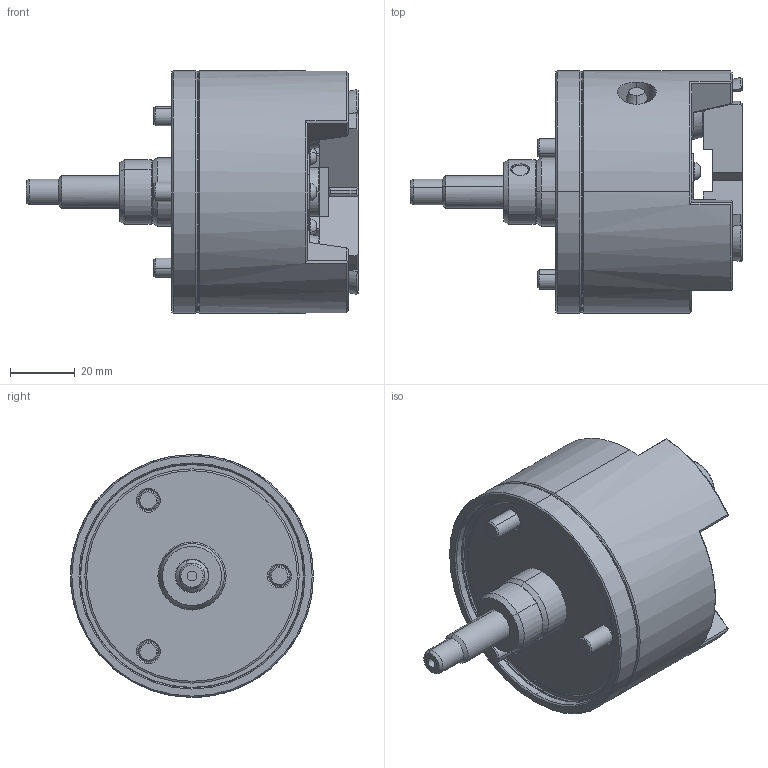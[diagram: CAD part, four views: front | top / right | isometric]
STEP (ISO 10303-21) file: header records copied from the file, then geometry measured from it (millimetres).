
FILE_DESCRIPTION (( 'STEP AP214' ), '1' );
FILE_NAME ('PU203_CL.STEP', '2019-10-18T06:51:59', ( '' ), ( '' ), 'SwSTEP 2.0', 'SolidWorks 2017', '' );
FILE_SCHEMA (( 'AUTOMOTIVE_DESIGN' ));
Length unit declared in the file: millimetre
Products named in the file (4): 結合; 0030105012; 61P449764; PU203_CL
Assembly tree (7 placements, depth 2):
  PU203_CL
    61P449764  x3
    0030105012  x3
    結合
Bounding box: 102.5 x 75 x 75 mm (x, y, z)
Volume: 198718.8 mm3; surface area: 40217.5 mm2
Topology: 7 solids, 7 shells, 985 faces, 2475 edges, 1559 vertices
Faces by surface type: plane 476, cone 164, bspline 163, cylinder 151, torus 31
Entity records: 33886 total; most frequent: CARTESIAN_POINT 14033, ORIENTED_EDGE 4426, DIRECTION 3473, EDGE_CURVE 2213, VERTEX_POINT 1409, LINE 1183, VECTOR 1183, AXIS2_PLACEMENT_3D 1145
